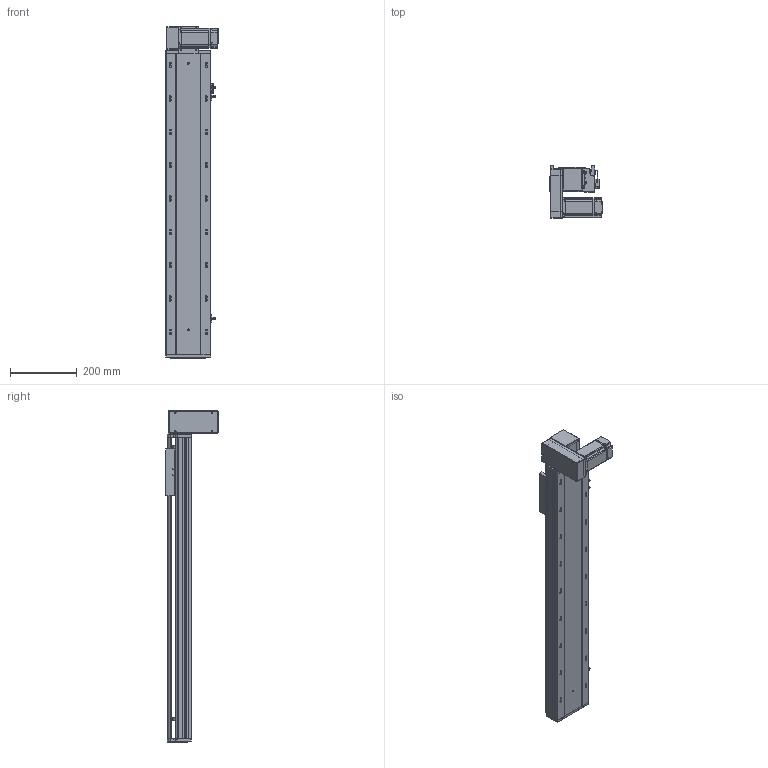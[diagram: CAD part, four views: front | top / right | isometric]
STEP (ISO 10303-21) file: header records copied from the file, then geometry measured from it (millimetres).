
FILE_DESCRIPTION (( 'STEP AP203' ), '1' );
FILE_NAME ('RY140-T-300-DL.SLDASM_650.step', '2021-03-01T06:05:55', ( '盈信电脑' ), ( '东莞市道滘镇水果街19号' ), 'SwSTEP 2.0', 'SolidWorks 2012', '' );
FILE_SCHEMA (( 'CONFIG_CONTROL_DESIGN' ));
Length unit declared in the file: millimetre
Products named in the file (18): RY140-T-300-DL.SLDASM_650; 滅袉蝶18-10; RY140-T翋肮謫裔啣; RY140-T萇儂欶; 侂狟400W侜督萇儂; RY120-T蹟翐M4; RY120-T主同步轮轴承压盖; RY120-T肮祭湍揤踡輸1; RY140-T萇儂假蚾啣; RY140-T翋肮祭謫盓傅釱; 15; RY120-T肮祭湍揤踡輸2; 覜茼ん672; RY120外置感应片(140共用）; RY140-T-300-DL倰第菁釱_650; RY140-T-300-DL倰第奻裔啣_650; RY140綴裔啣; RY140肮祭謫臏賑輸
Assembly tree (23 placements, depth 3):
  RY140-T-300-DL.SLDASM_650
    RY140-T-300-DL倰第菁釱_650
    RY140肮祭謫臏賑輸
    RY140-T-300-DL倰第奻裔啣_650
    RY140綴裔啣
    覜茼ん672  x3
    RY120外置感应片(140共用）
    RY120-T肮祭湍揤踡輸2
    RY120-T肮祭湍揤踡輸1
    RY140-T翋肮祭謫盓傅釱
    RY140-T萇儂假蚾啣
    侂狟400W侜督萇儂
      15
    RY120-T主同步轮轴承压盖
    RY120-T蹟翐M4  x4
    RY140-T萇儂欶
    滅袉蝶18-10  x2
    RY140-T翋肮謫裔啣
Bounding box: 157 x 158.5 x 996 mm (x, y, z)
Volume: 3154337.9 mm3; surface area: 1183771.9 mm2
Topology: 22 solids, 22 shells, 2666 faces, 7330 edges, 4720 vertices
Faces by surface type: plane 1385, cylinder 983, cone 198, bspline 100
Entity records: 84844 total; most frequent: CARTESIAN_POINT 20819, ORIENTED_EDGE 13188, DIRECTION 12472, EDGE_CURVE 6594, VERTEX_POINT 4319, VECTOR 4206, LINE 4206, AXIS2_PLACEMENT_3D 4133
